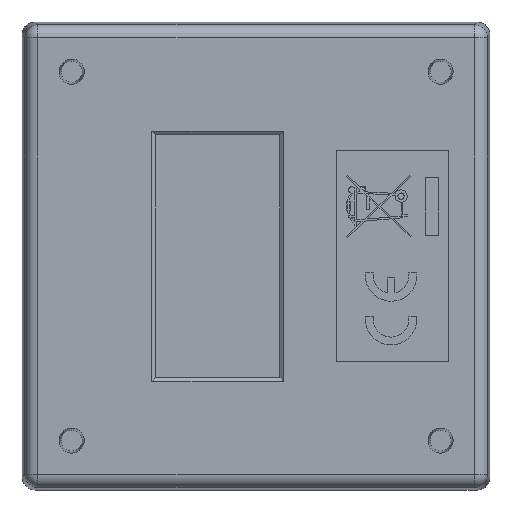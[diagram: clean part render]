
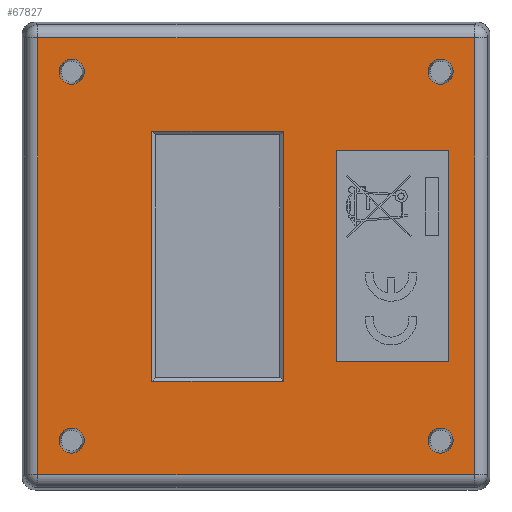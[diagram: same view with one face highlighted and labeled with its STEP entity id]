
A CAD part, front view. The second image highlights one B-rep face of the part: STEP entity #67827.
In plain terms, the highlighted planar face has unit normal (0, -1, 0) as drawn and (0, 0, -1) by its records, which use the part's own axes.
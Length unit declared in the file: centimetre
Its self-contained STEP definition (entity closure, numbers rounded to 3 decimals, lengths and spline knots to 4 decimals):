
#23386=CIRCLE('',#70335,0.1209);
#23387=CIRCLE('',#70336,0.1209);
#23388=CIRCLE('',#70337,0.1209);
#23389=CIRCLE('',#70338,0.1209);
#25780=VERTEX_POINT('',#86690);
#25781=VERTEX_POINT('',#86692);
#25783=VERTEX_POINT('',#86698);
#25785=VERTEX_POINT('',#86704);
#25880=VERTEX_POINT('',#87050);
#25881=VERTEX_POINT('',#87052);
#25883=VERTEX_POINT('',#87058);
#25885=VERTEX_POINT('',#87064);
#26006=VERTEX_POINT('',#88136);
#26007=VERTEX_POINT('',#88138);
#26008=VERTEX_POINT('',#88140);
#26009=VERTEX_POINT('',#88142);
#26010=VERTEX_POINT('',#88144);
#26011=VERTEX_POINT('',#88145);
#26012=VERTEX_POINT('',#88147);
#26013=VERTEX_POINT('',#88149);
#30464=VECTOR('',#74647,1.);
#30467=VECTOR('',#74651,1.);
#30470=VECTOR('',#74655,1.);
#30473=VECTOR('',#74659,1.);
#30603=VECTOR('',#74853,1.);
#30606=VECTOR('',#74857,1.);
#30609=VECTOR('',#74861,1.);
#30612=VECTOR('',#74865,1.);
#30773=VECTOR('',#75098,1.);
#30774=VECTOR('',#75099,1.);
#30775=VECTOR('',#75100,1.);
#30776=VECTOR('',#75101,1.);
#35904=LINE('',#86691,#30464);
#35907=LINE('',#86697,#30467);
#35910=LINE('',#86703,#30470);
#35913=LINE('',#86708,#30473);
#36043=LINE('',#87051,#30603);
#36046=LINE('',#87057,#30606);
#36049=LINE('',#87063,#30609);
#36052=LINE('',#87068,#30612);
#36213=LINE('',#88143,#30773);
#36214=LINE('',#88146,#30774);
#36215=LINE('',#88148,#30775);
#36216=LINE('',#88150,#30776);
#41427=EDGE_CURVE('',#25781,#25780,#35904,.T.);
#41430=EDGE_CURVE('',#25783,#25781,#35907,.T.);
#41433=EDGE_CURVE('',#25785,#25783,#35910,.T.);
#41436=EDGE_CURVE('',#25780,#25785,#35913,.T.);
#41576=EDGE_CURVE('',#25881,#25880,#36043,.F.);
#41579=EDGE_CURVE('',#25883,#25881,#36046,.F.);
#41582=EDGE_CURVE('',#25885,#25883,#36049,.F.);
#41585=EDGE_CURVE('',#25880,#25885,#36052,.F.);
#41766=EDGE_CURVE('',#26006,#26006,#23386,.F.);
#41767=EDGE_CURVE('',#26007,#26007,#23387,.F.);
#41768=EDGE_CURVE('',#26008,#26008,#23388,.F.);
#41769=EDGE_CURVE('',#26009,#26009,#23389,.F.);
#41770=EDGE_CURVE('',#26010,#26011,#36213,.T.);
#41771=EDGE_CURVE('',#26012,#26010,#36214,.T.);
#41772=EDGE_CURVE('',#26013,#26012,#36215,.T.);
#41773=EDGE_CURVE('',#26011,#26013,#36216,.T.);
#49601=ORIENTED_EDGE('',*,*,#41427,.T.);
#49602=ORIENTED_EDGE('',*,*,#41436,.T.);
#49603=ORIENTED_EDGE('',*,*,#41433,.T.);
#49604=ORIENTED_EDGE('',*,*,#41430,.T.);
#49605=ORIENTED_EDGE('',*,*,#41766,.T.);
#49606=ORIENTED_EDGE('',*,*,#41767,.T.);
#49607=ORIENTED_EDGE('',*,*,#41768,.T.);
#49608=ORIENTED_EDGE('',*,*,#41769,.T.);
#49609=ORIENTED_EDGE('',*,*,#41770,.F.);
#49610=ORIENTED_EDGE('',*,*,#41771,.F.);
#49611=ORIENTED_EDGE('',*,*,#41772,.F.);
#49612=ORIENTED_EDGE('',*,*,#41773,.F.);
#49613=ORIENTED_EDGE('',*,*,#41576,.T.);
#49614=ORIENTED_EDGE('',*,*,#41585,.T.);
#49615=ORIENTED_EDGE('',*,*,#41582,.T.);
#49616=ORIENTED_EDGE('',*,*,#41579,.T.);
#62437=EDGE_LOOP('',(#49601,#49602,#49603,#49604));
#62438=EDGE_LOOP('',(#49605));
#62439=EDGE_LOOP('',(#49606));
#62440=EDGE_LOOP('',(#49607));
#62441=EDGE_LOOP('',(#49608));
#62442=EDGE_LOOP('',(#49609,#49610,#49611,#49612));
#62443=EDGE_LOOP('',(#49613,#49614,#49615,#49616));
#65143=FACE_BOUND('',#62437,.T.);
#65144=FACE_BOUND('',#62438,.T.);
#65145=FACE_BOUND('',#62439,.T.);
#65146=FACE_BOUND('',#62440,.T.);
#65147=FACE_BOUND('',#62441,.T.);
#65148=FACE_BOUND('',#62442,.T.);
#65149=FACE_BOUND('',#62443,.T.);
#67827=ADVANCED_FACE('',(#65143,#65144,#65145,#65146,#65147,#65148,#65149),
#107530,.F.);
#70334=AXIS2_PLACEMENT_3D('',#88134,#75089,$);
#70335=AXIS2_PLACEMENT_3D('',#88135,#75090,#75091);
#70336=AXIS2_PLACEMENT_3D('',#88137,#75092,#75093);
#70337=AXIS2_PLACEMENT_3D('',#88139,#75094,#75095);
#70338=AXIS2_PLACEMENT_3D('',#88141,#75096,#75097);
#74647=DIRECTION('',(1.,0.,0.));
#74651=DIRECTION('',(0.,-1.,0.));
#74655=DIRECTION('',(-1.,0.,0.));
#74659=DIRECTION('',(0.,1.,0.));
#74853=DIRECTION('',(-1.,0.,0.));
#74857=DIRECTION('',(0.,1.,0.));
#74861=DIRECTION('',(1.,0.,0.));
#74865=DIRECTION('',(0.,-1.,0.));
#75089=DIRECTION('',(0.,0.,1.));
#75090=DIRECTION('',(0.,0.,-1.));
#75091=DIRECTION('',(-0.121,0.,0.));
#75092=DIRECTION('',(0.,0.,-1.));
#75093=DIRECTION('',(-0.121,0.,0.));
#75094=DIRECTION('',(0.,0.,-1.));
#75095=DIRECTION('',(-0.121,0.,0.));
#75096=DIRECTION('',(0.,0.,-1.));
#75097=DIRECTION('',(-0.121,0.,0.));
#75098=DIRECTION('',(-1.,0.,0.));
#75099=DIRECTION('',(0.,1.,0.));
#75100=DIRECTION('',(1.,0.,0.));
#75101=DIRECTION('',(0.,-1.,0.));
#86690=CARTESIAN_POINT('',(1.2065,-0.2639,-0.0032));
#86691=CARTESIAN_POINT('',(0.6033,-0.2639,-0.0032));
#86692=CARTESIAN_POINT('',(-1.2065,-0.2639,-0.0032));
#86697=CARTESIAN_POINT('',(-1.2065,-0.1319,-0.0032));
#86698=CARTESIAN_POINT('',(-1.2065,1.0061,-0.0032));
#86703=CARTESIAN_POINT('',(-0.6032,1.0061,-0.0032));
#86704=CARTESIAN_POINT('',(1.2065,1.0061,-0.0032));
#86708=CARTESIAN_POINT('',(1.2065,0.5031,-0.0032));
#87050=CARTESIAN_POINT('',(1.0178,-1.8531,-0.0032));
#87051=CARTESIAN_POINT('',(0.,-1.8531,-0.0032));
#87052=CARTESIAN_POINT('',(-1.0178,-1.8531,-0.0032));
#87057=CARTESIAN_POINT('',(-1.0178,-0.3279,-0.0032));
#87058=CARTESIAN_POINT('',(-1.0178,-0.7701,-0.0032));
#87063=CARTESIAN_POINT('',(0.,-0.7701,-0.0032));
#87064=CARTESIAN_POINT('',(1.0178,-0.7701,-0.0032));
#87068=CARTESIAN_POINT('',(1.0178,-0.3279,-0.0032));
#88134=CARTESIAN_POINT('',(0.,0.,-0.0032));
#88135=CARTESIAN_POINT('',(1.778,1.778,-0.0032));
#88136=CARTESIAN_POINT('',(1.8989,1.778,-0.0032));
#88137=CARTESIAN_POINT('',(1.778,-1.778,-0.0032));
#88138=CARTESIAN_POINT('',(1.8989,-1.778,-0.0032));
#88139=CARTESIAN_POINT('',(-1.778,-1.778,-0.0032));
#88140=CARTESIAN_POINT('',(-1.6571,-1.778,-0.0032));
#88141=CARTESIAN_POINT('',(-1.778,1.778,-0.0032));
#88142=CARTESIAN_POINT('',(-1.6571,1.778,-0.0032));
#88143=CARTESIAN_POINT('',(0.,2.1054,-0.0032));
#88144=CARTESIAN_POINT('',(2.1054,2.1054,-0.0032));
#88145=CARTESIAN_POINT('',(-2.1054,2.1054,-0.0032));
#88146=CARTESIAN_POINT('',(2.1054,0.,-0.0032));
#88147=CARTESIAN_POINT('',(2.1054,-2.1054,-0.0032));
#88148=CARTESIAN_POINT('',(0.,-2.1054,-0.0032));
#88149=CARTESIAN_POINT('',(-2.1054,-2.1054,-0.0032));
#88150=CARTESIAN_POINT('',(-2.1054,0.,-0.0032));
#107530=PLANE('',#70334);
